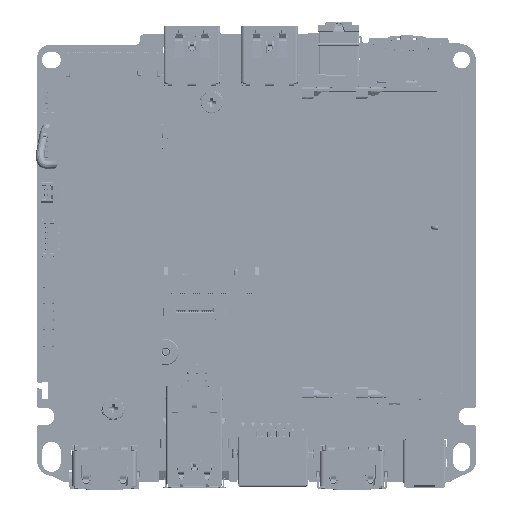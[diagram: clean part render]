
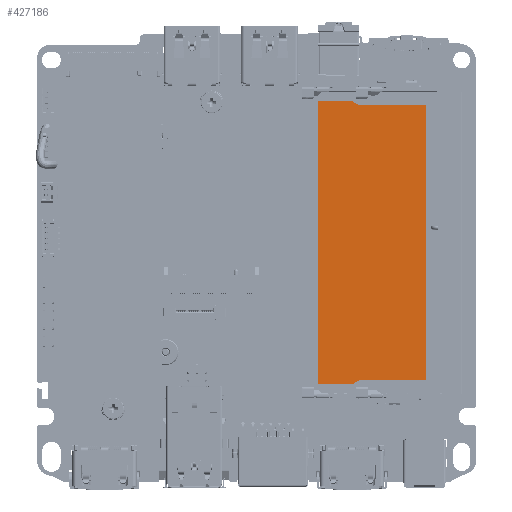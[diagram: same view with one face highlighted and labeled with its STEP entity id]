
A CAD part, front view. The second image highlights one B-rep face of the part: STEP entity #427186.
In plain terms, the highlighted planar face has unit normal (0, -1, 0) as drawn and (0, 0, 1) by its records, which use the part's own axes.
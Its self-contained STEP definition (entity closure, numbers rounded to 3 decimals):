
#426063=DIRECTION('',(0.,-1.,0.));
#426064=VECTOR('',#426063,14.664);
#426065=CARTESIAN_POINT('',(31.8,9.9,2.45));
#426066=LINE('',#426065,#426064);
#426067=CARTESIAN_POINT('',(34.8,-4.764,2.45));
#426068=DIRECTION('',(0.,0.,1.));
#426069=DIRECTION('',(-1.,0.,0.));
#426070=AXIS2_PLACEMENT_3D('',#426067,#426068,#426069);
#426072=DIRECTION('',(0.,-1.,0.));
#426073=VECTOR('',#426072,8.);
#426074=CARTESIAN_POINT('',(32.8,-7.,2.45));
#426075=LINE('',#426074,#426073);
#426076=DIRECTION('',(-1.,0.,0.));
#426077=VECTOR('',#426076,65.6);
#426078=CARTESIAN_POINT('',(32.8,-15.,2.45));
#426079=LINE('',#426078,#426077);
#426080=DIRECTION('',(0.,1.,0.));
#426081=VECTOR('',#426080,8.);
#426082=CARTESIAN_POINT('',(-32.8,-15.,2.45));
#426083=LINE('',#426082,#426081);
#426084=CARTESIAN_POINT('',(-34.8,-4.764,2.45));
#426085=DIRECTION('',(0.,0.,1.));
#426086=DIRECTION('',(0.667,-0.745,0.));
#426087=AXIS2_PLACEMENT_3D('',#426084,#426085,#426086);
#426089=DIRECTION('',(0.,1.,0.));
#426090=VECTOR('',#426089,14.664);
#426091=CARTESIAN_POINT('',(-31.8,-4.764,2.45));
#426092=LINE('',#426091,#426090);
#426093=DIRECTION('',(-1.,0.,0.));
#426094=VECTOR('',#426093,63.6);
#426095=CARTESIAN_POINT('',(31.8,9.9,2.45));
#426096=LINE('',#426095,#426094);
#426487=CARTESIAN_POINT('',(-32.8,-15.,2.45));
#426488=VERTEX_POINT('',#426487);
#426489=CARTESIAN_POINT('',(32.8,-15.,2.45));
#426490=VERTEX_POINT('',#426489);
#426551=CARTESIAN_POINT('',(32.8,-7.,2.45));
#426552=VERTEX_POINT('',#426551);
#426553=CARTESIAN_POINT('',(31.8,9.9,2.45));
#426554=CARTESIAN_POINT('',(-31.8,9.9,2.45));
#426555=VERTEX_POINT('',#426553);
#426556=VERTEX_POINT('',#426554);
#426557=CARTESIAN_POINT('',(31.8,-4.764,2.45));
#426558=VERTEX_POINT('',#426557);
#426559=CARTESIAN_POINT('',(-32.8,-7.,2.45));
#426560=VERTEX_POINT('',#426559);
#426561=CARTESIAN_POINT('',(-31.8,-4.764,2.45));
#426562=VERTEX_POINT('',#426561);
#427165=CARTESIAN_POINT('',(0.,0.,2.45));
#427166=DIRECTION('',(0.,0.,1.));
#427167=DIRECTION('',(-1.,0.,0.));
#427168=AXIS2_PLACEMENT_3D('',#427165,#427166,#427167);
#427169=PLANE('',#427168);
#427171=ORIENTED_EDGE('',*,*,#427170,.F.);
#427173=ORIENTED_EDGE('',*,*,#427172,.T.);
#427175=ORIENTED_EDGE('',*,*,#427174,.T.);
#427176=ORIENTED_EDGE('',*,*,#427158,.T.);
#427177=ORIENTED_EDGE('',*,*,#426869,.T.);
#427179=ORIENTED_EDGE('',*,*,#427178,.T.);
#427181=ORIENTED_EDGE('',*,*,#427180,.T.);
#427183=ORIENTED_EDGE('',*,*,#427182,.T.);
#427184=EDGE_LOOP('',(#427171,#427173,#427175,#427176,#427177,#427179,#427181,
#427183));
#427185=FACE_OUTER_BOUND('',#427184,.F.);
#427186=ADVANCED_FACE('',(#427185),#427169,.T.);
#426071=CIRCLE('',#426070,3.);
#426088=CIRCLE('',#426087,3.);
#426869=EDGE_CURVE('',#426490,#426488,#426079,.T.);
#427158=EDGE_CURVE('',#426552,#426490,#426075,.T.);
#427170=EDGE_CURVE('',#426555,#426556,#426096,.T.);
#427172=EDGE_CURVE('',#426555,#426558,#426066,.T.);
#427174=EDGE_CURVE('',#426558,#426552,#426071,.T.);
#427178=EDGE_CURVE('',#426488,#426560,#426083,.T.);
#427180=EDGE_CURVE('',#426560,#426562,#426088,.T.);
#427182=EDGE_CURVE('',#426562,#426556,#426092,.T.);
